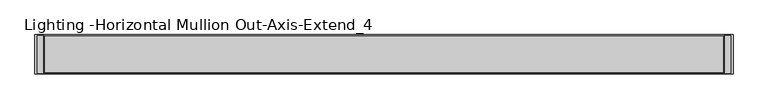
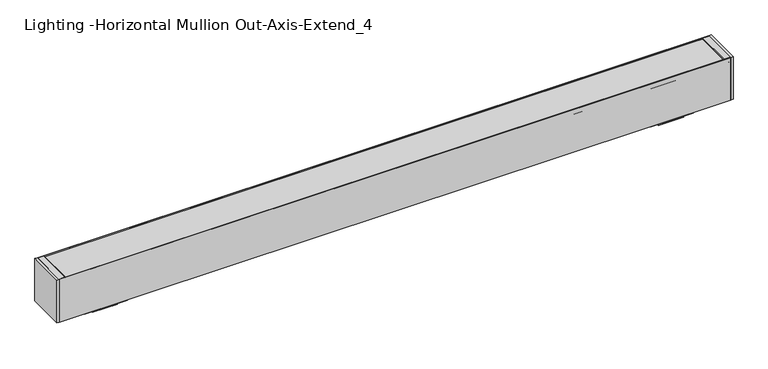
"""IFC4 building model written with IfcOpenShell, lengths in millimetres: light fixture geometry, Lighting -Horizontal Mullion Out-Axis-Extend_4 : EX4WD-900-80-35-SO-4."""

from ifc_helpers import new_model, si_unit, point, frame, frame_2d, origin, place, context, project, spatial, polyline, circle_curve, trimmed, segment, composite_curve, outline, extrude, faceted_brep, source, transform, mapped, element, save


def lighting_horizontal_mullion_out_axis_extend_4_3f4398bc(model_context):
    return source(origin(), model_context, "Body", "SolidModel", [
        extrude(outline(polyline([(155.4257861, -1210.2764833), (156.5275, -1211.201027), (156.5275, -1228.5898833), (151.9432981, -1228.5898833), (151.9432981, -1217.9218833), (154.7495, -1217.9218833), (154.7495, -1211.0702333), (153.95575, -1211.0702333), (153.95575, -1210.2764833), (155.4257861, -1210.2764833)])), frame((0.0, -9.08177, 0.0), z_axis=(0.0, 1.0, 0.0), x_axis=(0.0, 0.0, 1.0)), (0.0, 0.0, 1.0), 101.50602),
        extrude(outline(polyline([(-1228.5898833, 94.45625), (-1228.5898833, -11.11377), (-1234.9398833, -11.11377), (-1234.9398833, 94.45625), (-1228.5898833, 94.45625)])), frame((0.0, 0.0, 31.75), z_axis=(0.0, 0.0, 1.0), x_axis=(1.0, 0.0, 0.0)), (0.0, 0.0, 1.0), 124.7775),
        faceted_brep([(-1023.1902433, 66.8463453, 31.75), (-1023.1902433, 18.0836347, 31.75), (-1023.1902433, 18.0836347, 6.35), (-1023.1902433, 66.8463453, 6.35), (-1141.8895233, 66.8463453, 31.75), (-1141.8895233, 66.8463453, 6.35), (-1141.8895233, 18.0836347, 6.35), (-1141.8895233, 18.0836347, 31.75), (-1117.6740423, 61.46419, 0.0), (-1117.6740423, 61.46419, 6.35), (-1047.4057242, 61.46419, 6.35), (-1047.4057242, 61.46419, 0.0), (-1117.6740423, 23.46579, 0.0), (-1047.4057242, 23.46579, 0.0), (-1117.6740423, 23.46579, 6.35), (-1047.4057242, 23.46579, 6.35)], [[[0, 1, 2, 3]], [[4, 5, 6, 7]], [[8, 9, 10, 11]], [[12, 8, 11, 13]], [[14, 12, 13, 15]], [[1, 0, 4, 7]], [[0, 3, 5, 4]], [[6, 5, 3, 2], [14, 15, 10, 9]], [[6, 2, 1, 7]], [[14, 9, 8, 12]], [[10, 15, 13, 11]]]),
        faceted_brep([(543.4817567, 66.8463453, 31.75), (543.4817567, 18.0836347, 31.75), (543.4817567, 18.0836347, 6.35), (543.4817567, 66.8463453, 6.35), (424.7824767, 66.8463453, 31.75), (424.7824767, 66.8463453, 6.35), (424.7824767, 18.0836347, 6.35), (424.7824767, 18.0836347, 31.75), (448.9979577, 61.46419, 0.0), (448.9979577, 61.46419, 6.35), (519.2662758, 61.46419, 6.35), (519.2662758, 61.46419, 0.0), (448.9979577, 23.46579, 0.0), (519.2662758, 23.46579, 0.0), (448.9979577, 23.46579, 6.35), (519.2662758, 23.46579, 6.35)], [[[0, 1, 2, 3]], [[4, 5, 6, 7]], [[8, 9, 10, 11]], [[12, 8, 11, 13]], [[14, 12, 13, 15]], [[1, 0, 4, 7]], [[0, 3, 5, 4]], [[6, 5, 3, 2], [14, 15, 10, 9]], [[6, 2, 1, 7]], [[14, 9, 8, 12]], [[10, 15, 13, 11]]]),
        extrude(outline(polyline([(155.4257861, 611.8687167), (153.95575, 611.8687167), (153.95575, 612.6624667), (154.7495, 612.6624667), (154.7495, 619.5141167), (151.9432981, 619.5141167), (151.9432981, 630.1821167), (156.5275, 630.1821167), (156.5275, 612.7932605), (155.4257861, 611.8687167)])), frame((0.0, -9.08177, 0.0), z_axis=(0.0, 1.0, 0.0), x_axis=(0.0, 0.0, 1.0)), (0.0, 0.0, 1.0), 101.50602),
        extrude(outline(polyline([(630.1821167, -11.11377), (630.1821167, 94.45625), (636.5321167, 94.45625), (636.5321167, -11.11377), (630.1821167, -11.11377)])), frame((0.0, 0.0, 31.75), z_axis=(0.0, 0.0, 1.0), x_axis=(1.0, 0.0, 0.0)), (0.0, 0.0, 1.0), 124.7775),
        extrude(outline(composite_curve([segment(polyline([(87.4187262, 151.7954791), (-2.4887462, 151.7954791), (-2.8274381, 145.3328537)]), True, "CONTINUOUS"), segment(trimmed(circle_curve(frame_2d((-5.57022, 142.33398)), 4.064), [point((-2.8274381, 145.3328537))], [point((-3.6979014, 138.7269703))], False, "CARTESIAN"), True, "CONTINUOUS"), segment(trimmed(circle_curve(frame_2d((-0.465364, 139.5158257)), 3.3274001), [point((-3.6979014, 138.7269703))], [point((-2.8826156, 137.2292375))], True, "CARTESIAN"), True, "CONTINUOUS"), segment(trimmed(circle_curve(frame_2d((4.5536623, 144.2635508)), 10.2362001), [point((-2.8826156, 137.2292375))], [point((-1.5279266, 136.0298355))], True, "CARTESIAN"), True, "CONTINUOUS"), segment(trimmed(circle_curve(frame_2d((-2.0183773, 135.3658262)), 0.8255), [point((-1.5279266, 136.0298355))], [point((-2.508828, 134.7018169))], False, "CARTESIAN"), True, "CONTINUOUS"), segment(trimmed(circle_curve(frame_2d((4.5536631, 144.2635517)), 11.8872013), [point((-2.508828, 134.7018169))], [point((-4.0820152, 136.0946708))], False, "CARTESIAN"), True, "CONTINUOUS"), segment(trimmed(circle_curve(frame_2d((-0.465364, 139.5158257)), 4.9784001), [point((-4.0820152, 136.0946708))], [point((-5.4269007, 139.92524))], False, "CARTESIAN"), True, "CONTINUOUS"), segment(trimmed(circle_curve(frame_2d((-5.57022, 142.33398)), 2.413), [point((-5.4269007, 139.92524))], [point((-3.7914141, 143.9644458))], True, "CARTESIAN"), True, "CONTINUOUS"), segment(trimmed(circle_curve(frame_2d((-1.9189869, 145.6807256)), 2.54), [point((-3.7914141, 143.9644458))], [point((-4.4555059, 145.8136589))], False, "CARTESIAN"), True, "CONTINUOUS"), segment(polyline([(-4.4555059, 145.8136589), (-4.142012, 151.7954791), (-7.14502, 151.7954791), (-7.14502, 153.70048), (92.075, 153.70048), (92.075, 151.7954791), (89.071992, 151.7954791), (89.3854859, 145.8136589)]), True, "CONTINUOUS"), segment(trimmed(circle_curve(frame_2d((86.8489669, 145.6807256)), 2.54), [point((89.3854859, 145.8136589))], [point((88.7213941, 143.9644458))], False, "CARTESIAN"), True, "CONTINUOUS"), segment(trimmed(circle_curve(frame_2d((90.5002, 142.33398)), 2.413), [point((88.7213941, 143.9644458))], [point((90.3568807, 139.92524))], True, "CARTESIAN"), True, "CONTINUOUS"), segment(trimmed(circle_curve(frame_2d((85.395344, 139.5158257)), 4.9784001), [point((90.3568807, 139.92524))], [point((89.0119952, 136.0946708))], False, "CARTESIAN"), True, "CONTINUOUS"), segment(trimmed(circle_curve(frame_2d((80.3763169, 144.2635517)), 11.8872013), [point((89.0119952, 136.0946708))], [point((87.438808, 134.7018169))], False, "CARTESIAN"), True, "CONTINUOUS"), segment(trimmed(circle_curve(frame_2d((86.9483573, 135.3658262)), 0.8255), [point((87.438808, 134.7018169))], [point((86.4579066, 136.0298355))], False, "CARTESIAN"), True, "CONTINUOUS"), segment(trimmed(circle_curve(frame_2d((80.3763177, 144.2635508)), 10.2362001), [point((86.4579066, 136.0298355))], [point((87.8125956, 137.2292375))], True, "CARTESIAN"), True, "CONTINUOUS"), segment(trimmed(circle_curve(frame_2d((85.395344, 139.5158257)), 3.3274001), [point((87.8125956, 137.2292375))], [point((88.6278814, 138.7269703))], True, "CARTESIAN"), True, "CONTINUOUS"), segment(trimmed(circle_curve(frame_2d((90.5002, 142.33398)), 4.064), [point((88.6278814, 138.7269703))], [point((87.7574181, 145.3328537))], False, "CARTESIAN"), True, "CONTINUOUS"), segment(polyline([(87.7574181, 145.3328537), (87.4187262, 151.7954791)]), True, "CONTINUOUS")], self_intersect=False)), frame((-1213.6038833, 0.0, 0.0), z_axis=(1.0, 0.0, 0.0), x_axis=(0.0, 1.0, 0.0)), (0.0, 0.0, 1.0), 1828.8),
        extrude(outline(composite_curve([segment(polyline([(92.42425, 141.6177), (90.5848297, 141.6177)]), True, "CONTINUOUS"), segment(trimmed(circle_curve(frame_2d((89.0784797, 141.6177)), 1.5063501), [point((90.5848297, 141.6177))], [point((88.3253046, 140.3131626))], False, "CARTESIAN"), True, "CONTINUOUS"), segment(trimmed(circle_curve(frame_2d((89.5164621, 142.3763079)), 2.382315), [point((88.3253046, 140.3131626))], [point((87.1419016, 142.5683682))], False, "CARTESIAN"), True, "CONTINUOUS"), segment(polyline([(87.1419016, 142.5683682), (90.51925, 145.4023), (90.51925, 143.6497), (92.42425, 143.6497), (92.42425, 150.1775), (90.51925, 150.1775), (90.51925, 148.6535), (88.86825, 148.7400252), (88.86825, 151.4475), (92.42425, 151.4475), (92.42425, 156.5275), (94.45625, 156.5275), (94.45625, 31.75), (-11.11377, 31.75), (-11.11377, 156.5275), (-9.08177, 156.5275), (-9.08177, 151.4475), (-5.52577, 151.4475), (-5.52577, 148.7400252), (-7.17677, 148.6535), (-7.17677, 150.1775), (-9.08177, 150.1775), (-9.08177, 143.6497), (-7.17677, 143.6497), (-7.17677, 145.4023), (-3.7994216, 142.5683682)]), True, "CONTINUOUS"), segment(trimmed(circle_curve(frame_2d((-6.1739821, 142.3763079)), 2.382315), [point((-3.7994216, 142.5683682))], [point((-4.9828246, 140.3131626))], False, "CARTESIAN"), True, "CONTINUOUS"), segment(trimmed(circle_curve(frame_2d((-5.7359997, 141.6177)), 1.5063501), [point((-4.9828246, 140.3131626))], [point((-7.2423497, 141.6177))], False, "CARTESIAN"), True, "CONTINUOUS"), segment(polyline([(-7.2423497, 141.6177), (-9.08177, 141.6177), (-9.08177, 33.782), (92.42425, 33.782), (92.42425, 141.6177)]), True, "CONTINUOUS")], self_intersect=False)), frame((-1228.5898833, 0.0, 0.0), z_axis=(1.0, 0.0, 0.0), x_axis=(0.0, 1.0, 0.0)), (0.0, 0.0, 1.0), 1858.772),
    ])


if __name__ == "__main__":
    model = new_model("IFC4")
    model_context = context("Model", 3, world=origin())
    ifc_project = project(units=[si_unit("LENGTHUNIT", "METRE", prefix="MILLI")], contexts=[model_context])
    site = spatial("IfcSite", under=ifc_project)
    building = spatial("IfcBuilding", under=site)
    placement = place(None, origin())
    lighting_horizontal_mullion_out_axis_extend_4_shape = lighting_horizontal_mullion_out_axis_extend_4_3f4398bc(model_context)
    element("IfcLightFixture", 1, ObjectType="Lighting -Horizontal Mullion Out-Axis-Extend_4 : EX4WD-900-80-35-SO-4", at=placement, inside=building, context=model_context, shape_type="MappedRepresentation", body=[
        mapped(lighting_horizontal_mullion_out_axis_extend_4_shape, transform((0.0, 0.0, 0.0), x_axis=(1.0, 0.0, 0.0), y_axis=(0.0, 1.0, 0.0), z_axis=(0.0, 0.0, 1.0))),
    ])
    save(model, "model.ifc")
